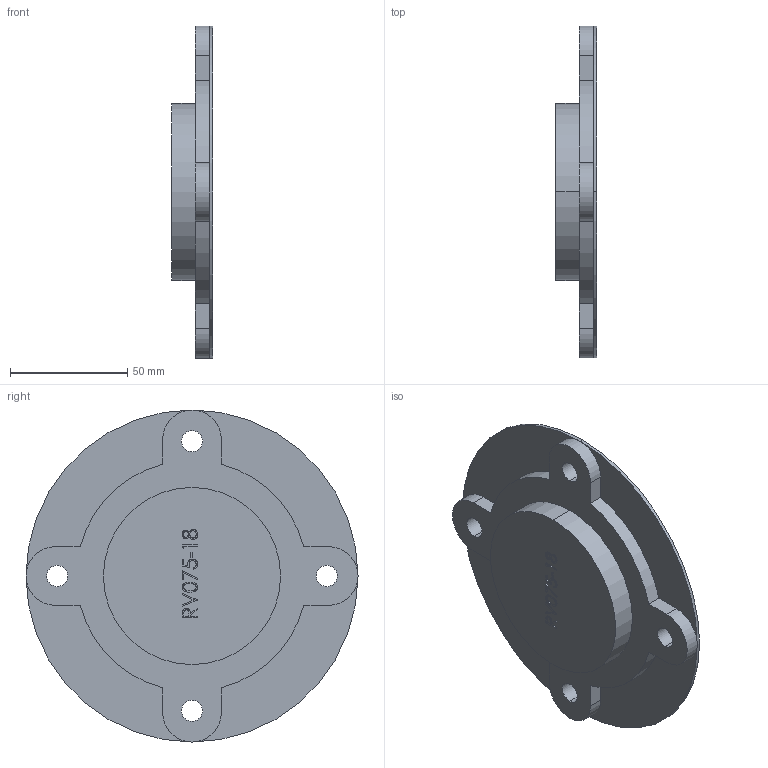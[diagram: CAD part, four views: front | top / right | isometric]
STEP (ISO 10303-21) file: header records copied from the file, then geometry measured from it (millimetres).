
FILE_DESCRIPTION (( 'STEP AP203' ), '1' );
FILE_NAME ('CALM75-OPC.STEP', '2014-09-02T03:46:43', ( 'user' ), ( '' ), 'SwSTEP 2.0', 'SolidWorks 2012', '' );
FILE_SCHEMA (( 'CONFIG_CONTROL_DESIGN' ));
Length unit declared in the file: millimetre
Products named in the file (1): CALM75-OPC
Bounding box: 17.9 x 141.5 x 141.5 mm (x, y, z)
Volume: 37127.6 mm3; surface area: 41751 mm2
Topology: 1 solids, 1 shells, 133 faces, 341 edges, 225 vertices
Faces by surface type: plane 69, bspline 39, cylinder 25
Entity records: 6501 total; most frequent: CARTESIAN_POINT 3387, ORIENTED_EDGE 682, DIRECTION 508, EDGE_CURVE 341, VERTEX_POINT 225, VECTOR 208, LINE 208, EDGE_LOOP 156
